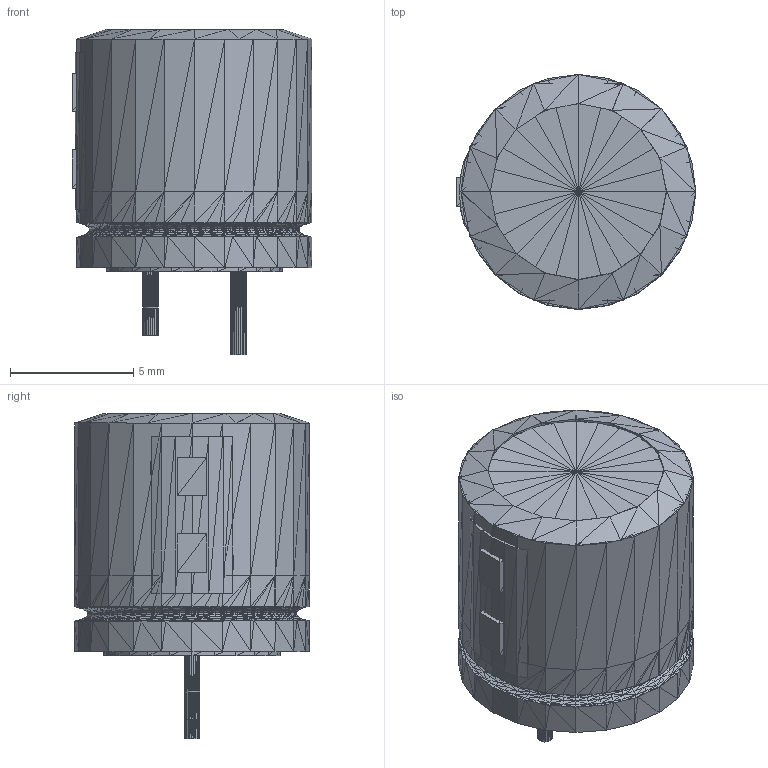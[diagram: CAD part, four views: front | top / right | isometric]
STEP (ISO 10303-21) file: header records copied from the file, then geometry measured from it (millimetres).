
FILE_DESCRIPTION(('HOOPS Exchange Step'),'2;1');
FILE_NAME('***.stp');
FILE_SCHEMA( ('AP242_MANAGED_MODEL_BASED_3D_ENGINEERING_MIM_LF {1 0 10303 442 1 1 4 }') );
Length unit declared in the file: inch
Products named in the file (11): CAPOLV375MIL_2; CAPOLV375MIL_3; CAPOLV375MIL_4; CAPOLV375MIL_5; CAPOLV375MIL_6; CAPOLV375MIL_7; CAPOLV375MIL_8; CAPOLV375MIL_9; CAPOLV375MIL_10; CAPOLV375MIL_11; CAPOLV375MIL
Assembly tree (10 placements, depth 2):
  CAPOLV375MIL
    CAPOLV375MIL_2
    CAPOLV375MIL_3
    CAPOLV375MIL_4
    CAPOLV375MIL_5
    CAPOLV375MIL_6
    CAPOLV375MIL_7
    CAPOLV375MIL_8
    CAPOLV375MIL_9
    CAPOLV375MIL_10
    CAPOLV375MIL_11
Bounding box: 9.72 x 9.53 x 13.19 mm (x, y, z)
Volume: 713.7 mm3; surface area: 918.3 mm2
Topology: 10 solids, 10 shells, 2004 faces, 3006 edges, 1020 vertices
Faces by surface type: plane 2004
Entity records: 39590 total; most frequent: DIRECTION 7058, CARTESIAN_POINT 6052, ORIENTED_EDGE 6012, VECTOR 3006, LINE 3006, EDGE_CURVE 3006, AXIS2_PLACEMENT_3D 2026, PLANE 2004
